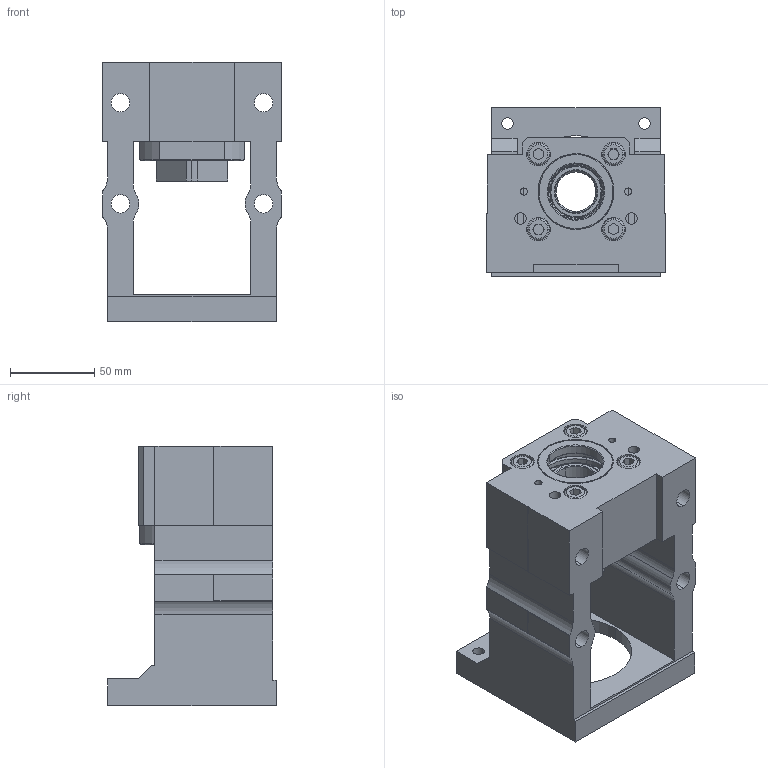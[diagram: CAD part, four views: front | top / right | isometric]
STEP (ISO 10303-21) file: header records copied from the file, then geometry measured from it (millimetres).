
FILE_DESCRIPTION (( 'STEP AP203' ), '1' );
FILE_NAME ('MBC25-Y²Õ¦X¥ó.STEP', '2017-12-28T06:45:09', ( '' ), ( '' ), 'SwSTEP 2.0', 'SolidWorks 2017', '' );
FILE_SCHEMA (( 'CONFIG_CONTROL_DESIGN' ));
Length unit declared in the file: millimetre
Products named in the file (1): MBC25-Y組合件
Bounding box: 106 x 100 x 154 mm (x, y, z)
Surface area: 122008.8 mm2 (no closed solid volume)
Topology: 0 solids, 32 shells, 306 faces, 842 edges, 555 vertices
Faces by surface type: plane 110, cylinder 104, cone 36, sphere 28, torus 26, bspline 2
Entity records: 9634 total; most frequent: CARTESIAN_POINT 2000, DIRECTION 1705, ORIENTED_EDGE 1389, EDGE_CURVE 772, AXIS2_PLACEMENT_3D 666, VERTEX_POINT 513, VECTOR 373, LINE 373
